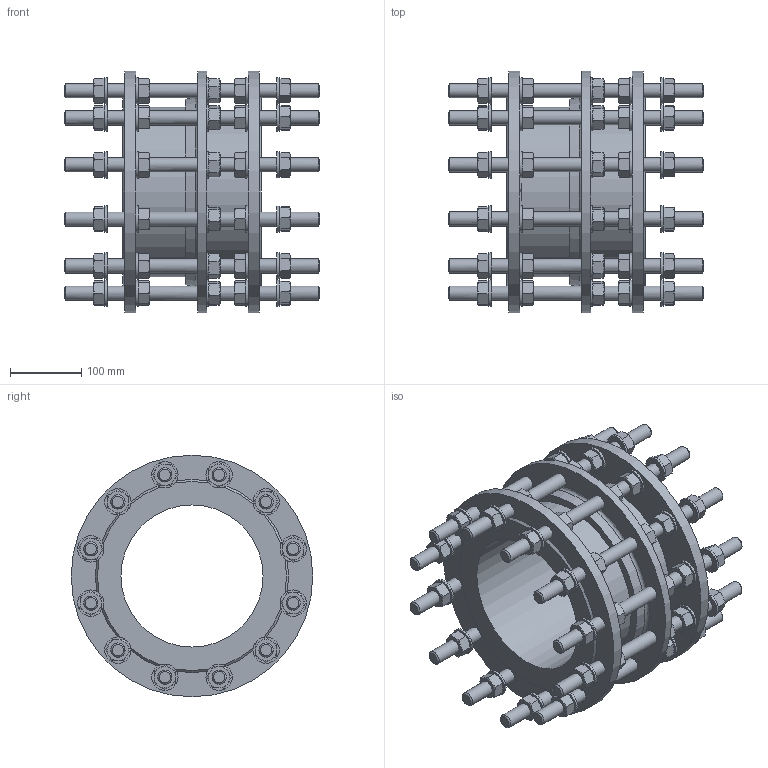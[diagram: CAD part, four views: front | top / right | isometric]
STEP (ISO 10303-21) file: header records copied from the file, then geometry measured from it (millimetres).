
FILE_DESCRIPTION (( 'STEP AP203' ), '1' );
FILE_NAME ('O_265_910_DN200_1XXXXX00_L=195_REV01.step', '2024-10-11T08:47:21', ( '' ), ( '' ), 'SwSTEP 2.0', 'SolidWorks 2022', '' );
FILE_SCHEMA (( 'CONFIG_CONTROL_DESIGN' ));
Products named in the file (1): O_265_910_DN200_1XXXXX00_L=195_REV01
Bounding box: 360 x 340 x 340 mm (x, y, z)
Volume: 6093602.8 mm3; surface area: 906298.7 mm2
Topology: 1 solids, 1 shells, 1464 faces, 3213 edges, 1918 vertices
Faces by surface type: cone 747, plane 576, cylinder 140, torus 1
Full cylindrical faces by diameter (mm): 20 x72, 37 x60, 200 x1, 213 x1, 239 x1, 340 x3
Entity records: 44328 total; most frequent: CARTESIAN_POINT 15494, ORIENTED_EDGE 5922, DIRECTION 5481, EDGE_CURVE 2961, AXIS2_PLACEMENT_3D 2507, EDGE_LOOP 1847, VERTEX_POINT 1832, FACE_OUTER_BOUND 1603
